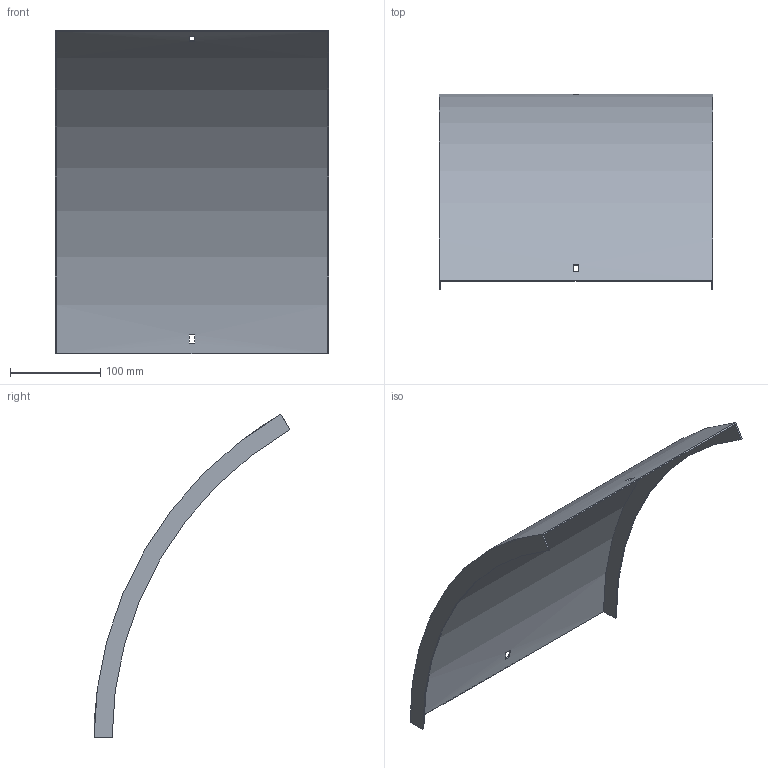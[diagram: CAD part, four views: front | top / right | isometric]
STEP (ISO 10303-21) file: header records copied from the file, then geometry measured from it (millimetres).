
FILE_DESCRIPTION (( 'STEP AP214' ), '1' );
FILE_NAME ('B2_41N3J300.step', '2025-02-21T10:42:11', ( '' ), ( '' ), 'SwSTEP 2.0', 'SolidWorks 2023', '' );
FILE_SCHEMA (( 'AUTOMOTIVE_DESIGN' ));
Length unit declared in the file: millimetre
Products named in the file (1): B2_41N3J300
Bounding box: 303 x 217 x 358.53 mm (x, y, z)
Volume: 219947.9 mm3; surface area: 295617.1 mm2
Topology: 1 solids, 1 shells, 18 faces, 48 edges, 32 vertices
Faces by surface type: plane 14, cylinder 4
Entity records: 599 total; most frequent: DIRECTION 102, CARTESIAN_POINT 99, ORIENTED_EDGE 96, EDGE_CURVE 48, AXIS2_PLACEMENT_3D 35, VERTEX_POINT 32, LINE 32, VECTOR 32
